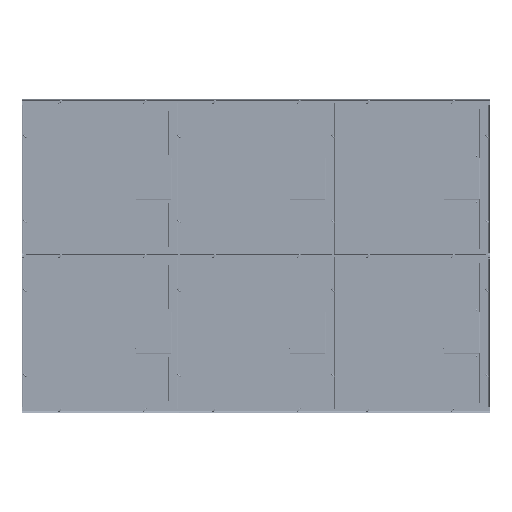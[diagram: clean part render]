
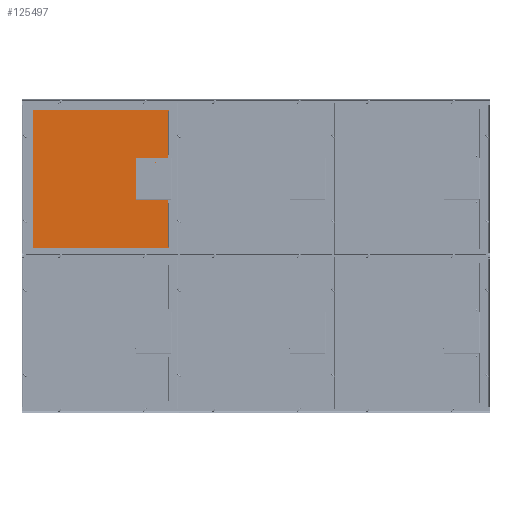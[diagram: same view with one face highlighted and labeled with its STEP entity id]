
A CAD part, top view. The second image highlights one B-rep face of the part: STEP entity #125497.
In plain terms, the highlighted planar face has unit normal (0, 0, 1) as drawn and (0, 0, -1) by its records, which use the part's own axes.
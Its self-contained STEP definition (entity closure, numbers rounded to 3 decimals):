
#10343 = CARTESIAN_POINT ( 'NONE',  ( 351.186, 1228.12, -150. ) ) ;
#14809 = DIRECTION ( 'NONE',  ( 0., 0., -1. ) ) ;
#15410 = DIRECTION ( 'NONE',  ( 0., 1., 0. ) ) ;
#19752 = VECTOR ( 'NONE', #133591, 1000. ) ;
#20211 = EDGE_CURVE ( 'NONE', #69091, #25983, #178062, .T. ) ;
#25983 = VERTEX_POINT ( 'NONE', #89911 ) ;
#40857 = CARTESIAN_POINT ( 'NONE',  ( 0., 0., -150. ) ) ;
#48762 = ORIENTED_EDGE ( 'NONE', *, *, #70141, .T. ) ;
#57853 = DIRECTION ( 'NONE',  ( -1., 0., 0. ) ) ;
#60002 = CARTESIAN_POINT ( 'NONE',  ( 351.186, 1228.12, -150. ) ) ;
#69091 = VERTEX_POINT ( 'NONE', #163756 ) ;
#70141 = EDGE_CURVE ( 'NONE', #25983, #100944, #135720, .T. ) ;
#89911 = CARTESIAN_POINT ( 'NONE',  ( -839.414, 49.52, -150. ) ) ;
#90146 = DIRECTION ( 'NONE',  ( 0., -1., 0. ) ) ;
#96207 = VERTEX_POINT ( 'NONE', #101275 ) ;
#100944 = VERTEX_POINT ( 'NONE', #170758 ) ;
#101275 = CARTESIAN_POINT ( 'NONE',  ( 351.186, 1228.12, -150. ) ) ;
#115252 = ORIENTED_EDGE ( 'NONE', *, *, #161953, .T. ) ;
#119550 = LINE ( 'NONE', #10343, #19752 ) ;
#120058 = AXIS2_PLACEMENT_3D ( 'NONE', #40857, #14809, #57853 ) ;
#120645 = CARTESIAN_POINT ( 'NONE',  ( -839.414, 1228.12, -150. ) ) ;
#125497 = ADVANCED_FACE ( 'NONE', ( #149151 ), #152114, .T. ) ;
#127569 = VECTOR ( 'NONE', #90146, 1000. ) ;
#132995 = DIRECTION ( 'NONE',  ( -1., 0., 0. ) ) ;
#133591 = DIRECTION ( 'NONE',  ( 1., 0., 0. ) ) ;
#133992 = CARTESIAN_POINT ( 'NONE',  ( 351.186, 49.52, -150. ) ) ;
#135275 = LINE ( 'NONE', #60002, #127569 ) ;
#135720 = LINE ( 'NONE', #120645, #166047 ) ;
#149151 = FACE_OUTER_BOUND ( 'NONE', #165900, .T. ) ;
#152114 = PLANE ( 'NONE',  #120058 ) ;
#153131 = VECTOR ( 'NONE', #132995, 1000. ) ;
#161953 = EDGE_CURVE ( 'NONE', #100944, #96207, #119550, .T. ) ;
#163163 = ORIENTED_EDGE ( 'NONE', *, *, #194187, .T. ) ;
#163756 = CARTESIAN_POINT ( 'NONE',  ( 351.186, 49.52, -150. ) ) ;
#165900 = EDGE_LOOP ( 'NONE', ( #163163, #173570, #48762, #115252 ) ) ;
#166047 = VECTOR ( 'NONE', #15410, 1000. ) ;
#170758 = CARTESIAN_POINT ( 'NONE',  ( -839.414, 1228.12, -150. ) ) ;
#173570 = ORIENTED_EDGE ( 'NONE', *, *, #20211, .T. ) ;
#178062 = LINE ( 'NONE', #133992, #153131 ) ;
#194187 = EDGE_CURVE ( 'NONE', #96207, #69091, #135275, .T. ) ;
